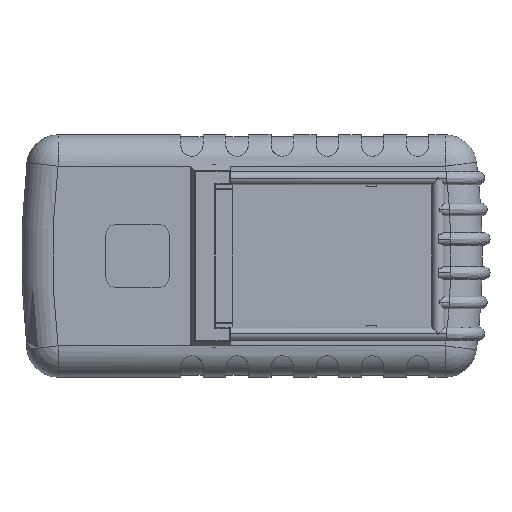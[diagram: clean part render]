
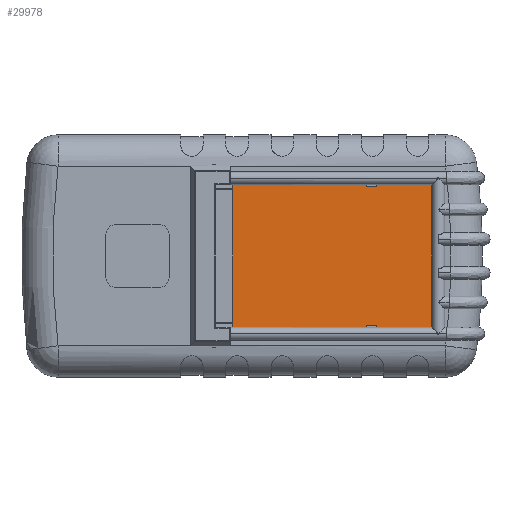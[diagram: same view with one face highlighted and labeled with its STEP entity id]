
A CAD part, front view. The second image highlights one B-rep face of the part: STEP entity #29978.
In plain terms, the highlighted planar face has unit normal (0, -1, 0).
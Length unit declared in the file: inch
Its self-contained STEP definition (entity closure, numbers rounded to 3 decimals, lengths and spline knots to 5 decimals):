
#207 = CARTESIAN_POINT ( 'NONE',  ( 2.15422, 0.08, -1.31062 ) ) ;
#781 = EDGE_CURVE ( 'NONE', #32618, #11858, #30052, .T. ) ;
#1724 = CARTESIAN_POINT ( 'NONE',  ( 2.15422, 0.08, 1.31062 ) ) ;
#1727 = LINE ( 'NONE', #5654, #15452 ) ;
#1790 = CARTESIAN_POINT ( 'NONE',  ( -0.35584, 0.08, 1.3435 ) ) ;
#1912 = ORIENTED_EDGE ( 'NONE', *, *, #7071, .T. ) ;
#1949 = DIRECTION ( 'NONE',  ( -1., 0., 0. ) ) ;
#2059 = CARTESIAN_POINT ( 'NONE',  ( 2.35422, 0.08, 0. ) ) ;
#2773 = VERTEX_POINT ( 'NONE', #4614 ) ;
#2804 = CARTESIAN_POINT ( 'NONE',  ( 2.15422, 0.08, 1.3435 ) ) ;
#2838 = ORIENTED_EDGE ( 'NONE', *, *, #13530, .T. ) ;
#3414 = DIRECTION ( 'NONE',  ( -1., 0., 0. ) ) ;
#3455 = DIRECTION ( 'NONE',  ( 0., -1., 0. ) ) ;
#3676 = LINE ( 'NONE', #11556, #32061 ) ;
#4614 = CARTESIAN_POINT ( 'NONE',  ( 3.39416, 0.08, 1.3435 ) ) ;
#4785 = CARTESIAN_POINT ( 'NONE',  ( 2.35422, 0.08, -1.3435 ) ) ;
#4802 = DIRECTION ( 'NONE',  ( 0., 0., 1. ) ) ;
#4841 = DIRECTION ( 'NONE',  ( 0., 0., -1. ) ) ;
#5342 = LINE ( 'NONE', #32851, #7045 ) ;
#5517 = VECTOR ( 'NONE', #34738, 39.37008 ) ;
#5654 = CARTESIAN_POINT ( 'NONE',  ( 3.39416, 0.08, 1.3435 ) ) ;
#6065 = PLANE ( 'NONE',  #7103 ) ;
#7045 = VECTOR ( 'NONE', #16337, 39.37008 ) ;
#7071 = EDGE_CURVE ( 'NONE', #26751, #9449, #3676, .T. ) ;
#7080 = LINE ( 'NONE', #28145, #20029 ) ;
#7096 = VECTOR ( 'NONE', #1949, 39.37008 ) ;
#7103 = AXIS2_PLACEMENT_3D ( 'NONE', #17139, #3455, #22687 ) ;
#7563 = EDGE_CURVE ( 'NONE', #27248, #24790, #5342, .T. ) ;
#7597 = CARTESIAN_POINT ( 'NONE',  ( 2.35422, 0.08, 0. ) ) ;
#8677 = ORIENTED_EDGE ( 'NONE', *, *, #14645, .F. ) ;
#8993 = VECTOR ( 'NONE', #20952, 39.37008 ) ;
#8994 = DIRECTION ( 'NONE',  ( 1., 0., 0. ) ) ;
#9449 = VERTEX_POINT ( 'NONE', #15911 ) ;
#10698 = ORIENTED_EDGE ( 'NONE', *, *, #32488, .T. ) ;
#10709 = LINE ( 'NONE', #32010, #8993 ) ;
#10801 = LINE ( 'NONE', #13903, #31077 ) ;
#10825 = EDGE_CURVE ( 'NONE', #32305, #26751, #10709, .T. ) ;
#11444 = EDGE_CURVE ( 'NONE', #9449, #25719, #33952, .T. ) ;
#11556 = CARTESIAN_POINT ( 'NONE',  ( 3.39416, 0.08, 1.3435 ) ) ;
#11858 = VERTEX_POINT ( 'NONE', #21823 ) ;
#12394 = CARTESIAN_POINT ( 'NONE',  ( 2.35422, 0.08, -1.31062 ) ) ;
#12667 = VECTOR ( 'NONE', #4802, 39.37008 ) ;
#13469 = DIRECTION ( 'NONE',  ( -1., 0., 0. ) ) ;
#13530 = EDGE_CURVE ( 'NONE', #25719, #32310, #7080, .T. ) ;
#13903 = CARTESIAN_POINT ( 'NONE',  ( 2.15422, 0.08, 0. ) ) ;
#14048 = LINE ( 'NONE', #22030, #35169 ) ;
#14069 = ORIENTED_EDGE ( 'NONE', *, *, #11444, .T. ) ;
#14645 = EDGE_CURVE ( 'NONE', #28272, #32310, #10801, .T. ) ;
#15452 = VECTOR ( 'NONE', #19384, 39.37008 ) ;
#15911 = CARTESIAN_POINT ( 'NONE',  ( -0.35584, 0.08, 1.3435 ) ) ;
#16337 = DIRECTION ( 'NONE',  ( 1., 0., 0. ) ) ;
#16694 = DIRECTION ( 'NONE',  ( 0., 0., -1. ) ) ;
#17139 = CARTESIAN_POINT ( 'NONE',  ( 0., 0.08, 0. ) ) ;
#17271 = ORIENTED_EDGE ( 'NONE', *, *, #35209, .F. ) ;
#17527 = EDGE_CURVE ( 'NONE', #24790, #2773, #14048, .T. ) ;
#17640 = EDGE_LOOP ( 'NONE', ( #30557, #28456, #1912, #14069, #2838, #8677, #24734, #17271, #20733, #21277, #10698, #27079 ) ) ;
#18215 = FACE_OUTER_BOUND ( 'NONE', #17640, .T. ) ;
#18661 = LINE ( 'NONE', #29979, #25987 ) ;
#19374 = DIRECTION ( 'NONE',  ( 0., 0., 1. ) ) ;
#19384 = DIRECTION ( 'NONE',  ( -1., 0., 0. ) ) ;
#20029 = VECTOR ( 'NONE', #8994, 39.37008 ) ;
#20733 = ORIENTED_EDGE ( 'NONE', *, *, #7563, .T. ) ;
#20952 = DIRECTION ( 'NONE',  ( 0., 0., 1. ) ) ;
#21082 = CARTESIAN_POINT ( 'NONE',  ( -0.35584, 0.08, -1.3435 ) ) ;
#21169 = CARTESIAN_POINT ( 'NONE',  ( 0., 0.08, 1.31062 ) ) ;
#21277 = ORIENTED_EDGE ( 'NONE', *, *, #17527, .T. ) ;
#21823 = CARTESIAN_POINT ( 'NONE',  ( 2.35422, 0.08, 1.31062 ) ) ;
#22030 = CARTESIAN_POINT ( 'NONE',  ( 3.39416, 0.08, -1.3435 ) ) ;
#22687 = DIRECTION ( 'NONE',  ( 0., 0., -1. ) ) ;
#24036 = CARTESIAN_POINT ( 'NONE',  ( 3.39416, 0.08, -1.3435 ) ) ;
#24734 = ORIENTED_EDGE ( 'NONE', *, *, #28913, .F. ) ;
#24790 = VERTEX_POINT ( 'NONE', #24036 ) ;
#25124 = CARTESIAN_POINT ( 'NONE',  ( 2.35422, 0.08, 1.3435 ) ) ;
#25719 = VERTEX_POINT ( 'NONE', #21082 ) ;
#25987 = VECTOR ( 'NONE', #13469, 39.37008 ) ;
#26751 = VERTEX_POINT ( 'NONE', #2804 ) ;
#27079 = ORIENTED_EDGE ( 'NONE', *, *, #781, .T. ) ;
#27248 = VERTEX_POINT ( 'NONE', #4785 ) ;
#27349 = LINE ( 'NONE', #2059, #12667 ) ;
#28145 = CARTESIAN_POINT ( 'NONE',  ( -0.35584, 0.08, -1.3435 ) ) ;
#28230 = LINE ( 'NONE', #21169, #7096 ) ;
#28272 = VERTEX_POINT ( 'NONE', #207 ) ;
#28456 = ORIENTED_EDGE ( 'NONE', *, *, #10825, .T. ) ;
#28913 = EDGE_CURVE ( 'NONE', #30138, #28272, #18661, .T. ) ;
#29176 = VECTOR ( 'NONE', #4841, 39.37008 ) ;
#29345 = CARTESIAN_POINT ( 'NONE',  ( 2.15422, 0.08, -1.3435 ) ) ;
#29978 = ADVANCED_FACE ( 'NONE', ( #18215 ), #6065, .T. ) ;
#29979 = CARTESIAN_POINT ( 'NONE',  ( 0., 0.08, -1.31062 ) ) ;
#30052 = LINE ( 'NONE', #7597, #29176 ) ;
#30138 = VERTEX_POINT ( 'NONE', #12394 ) ;
#30557 = ORIENTED_EDGE ( 'NONE', *, *, #35194, .T. ) ;
#31077 = VECTOR ( 'NONE', #16694, 39.37008 ) ;
#32010 = CARTESIAN_POINT ( 'NONE',  ( 2.15422, 0.08, 0. ) ) ;
#32061 = VECTOR ( 'NONE', #3414, 39.37008 ) ;
#32305 = VERTEX_POINT ( 'NONE', #1724 ) ;
#32310 = VERTEX_POINT ( 'NONE', #29345 ) ;
#32488 = EDGE_CURVE ( 'NONE', #2773, #32618, #1727, .T. ) ;
#32618 = VERTEX_POINT ( 'NONE', #25124 ) ;
#32851 = CARTESIAN_POINT ( 'NONE',  ( -0.35584, 0.08, -1.3435 ) ) ;
#33952 = LINE ( 'NONE', #1790, #5517 ) ;
#34738 = DIRECTION ( 'NONE',  ( 0., 0., -1. ) ) ;
#35169 = VECTOR ( 'NONE', #19374, 39.37008 ) ;
#35194 = EDGE_CURVE ( 'NONE', #11858, #32305, #28230, .T. ) ;
#35209 = EDGE_CURVE ( 'NONE', #27248, #30138, #27349, .T. ) ;
